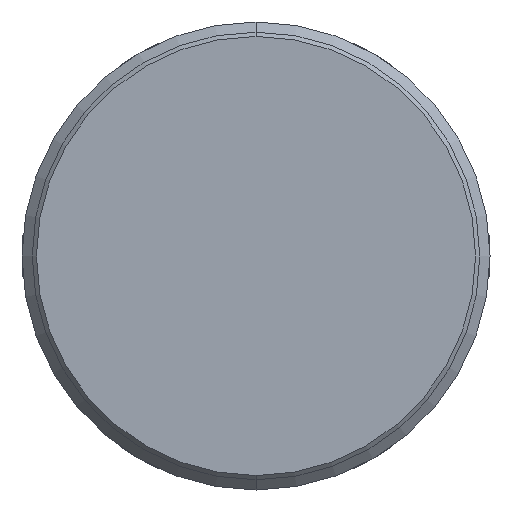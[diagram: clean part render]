
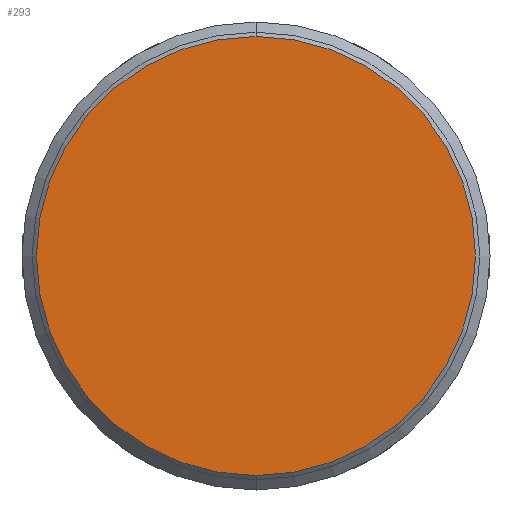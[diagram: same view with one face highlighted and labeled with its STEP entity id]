
A CAD part, front view. The second image highlights one B-rep face of the part: STEP entity #293.
In plain terms, the highlighted planar face has unit normal (0, -1, 0).
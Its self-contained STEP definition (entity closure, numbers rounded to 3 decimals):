
#268=CARTESIAN_POINT('',(0.0,-87.0,-25.8));
#269=VERTEX_POINT('',#268);
#270=CARTESIAN_POINT('',(0.0,-87.0,25.8));
#271=VERTEX_POINT('',#270);
#272=CARTESIAN_POINT('',(0.0,-87.0,0.0));
#273=DIRECTION('',(0.0,-1.0,0.0));
#274=DIRECTION('',(0.0,0.0,-1.0));
#275=AXIS2_PLACEMENT_3D('',#272,#273,#274);
#276=CIRCLE('',#275,25.8);
#277=EDGE_CURVE('no 2178',#269,#271,#276,.T.);
#278=ORIENTED_EDGE('',*,*,#277,.T.);
#279=CARTESIAN_POINT('',(0.0,-87.0,0.0));
#280=DIRECTION('',(0.0,-1.0,0.0));
#281=DIRECTION('',(0.0,0.0,-1.0));
#282=AXIS2_PLACEMENT_3D('',#279,#280,#281);
#283=CIRCLE('',#282,25.8);
#284=EDGE_CURVE('no 2182',#271,#269,#283,.T.);
#285=ORIENTED_EDGE('',*,*,#284,.T.);
#286=EDGE_LOOP('',(#278,#285));
#287=FACE_OUTER_BOUND('',#286,.T.);
#288=CARTESIAN_POINT('',(0.0,-87.0,0.0));
#289=DIRECTION('',(0.0,-1.0,0.0));
#290=DIRECTION('',(0.0,0.0,-1.0));
#291=AXIS2_PLACEMENT_3D('',#288,#289,#290);
#292=PLANE('',#291);
#293=ADVANCED_FACE('no 2169',(#287),#292,.T.);
